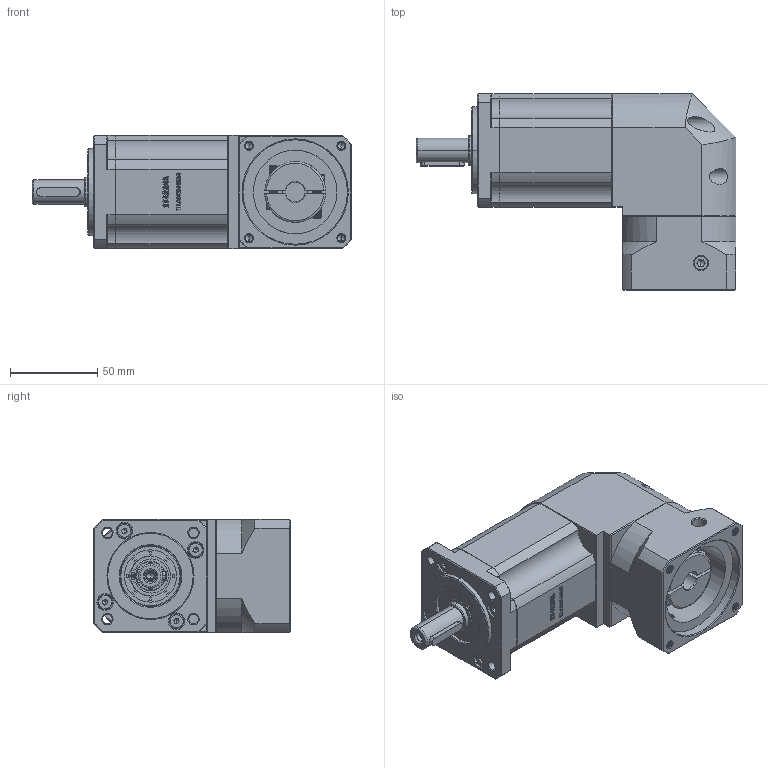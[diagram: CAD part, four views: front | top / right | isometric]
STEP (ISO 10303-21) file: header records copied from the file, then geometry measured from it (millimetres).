
FILE_DESCRIPTION (( 'STEP AP214' ), '1' );
FILE_NAME ('ZBR60-D14-L3-11-60-75-M5.STEP', '2022-04-19T08:48:53', ( '' ), ( 'Microsoft' ), 'SwSTEP 2.0', 'SolidWorks 2016', '' );
FILE_SCHEMA (( 'AUTOMOTIVE_DESIGN' ));
Length unit declared in the file: millimetre
Products named in the file (1): ZBR60-D14-L3-11-60-75-M5
Bounding box: 183.5 x 112.7 x 65 mm (x, y, z)
Volume: 661817.1 mm3; surface area: 87057.5 mm2
Topology: 5 solids, 5 shells, 2843 faces, 7685 edges, 4978 vertices
Faces by surface type: plane 1472, bspline 591, cylinder 432, cone 326, torus 22
Entity records: 155293 total; most frequent: CARTESIAN_POINT 56983, ORIENTED_EDGE 15310, DIRECTION 11621, EDGE_CURVE 7655, VECTOR 5057, LINE 5057, VERTEX_POINT 4978, AXIS2_PLACEMENT_3D 3282
